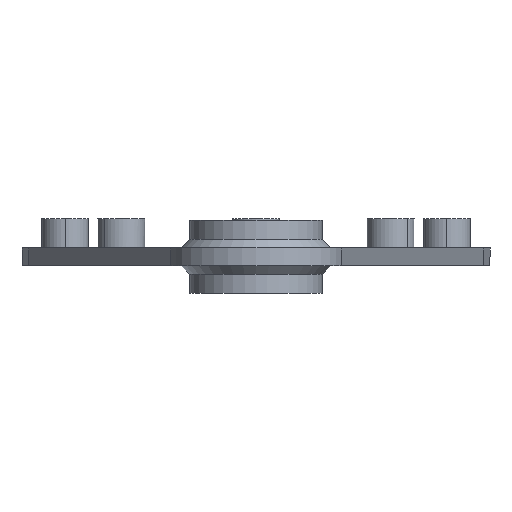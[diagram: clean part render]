
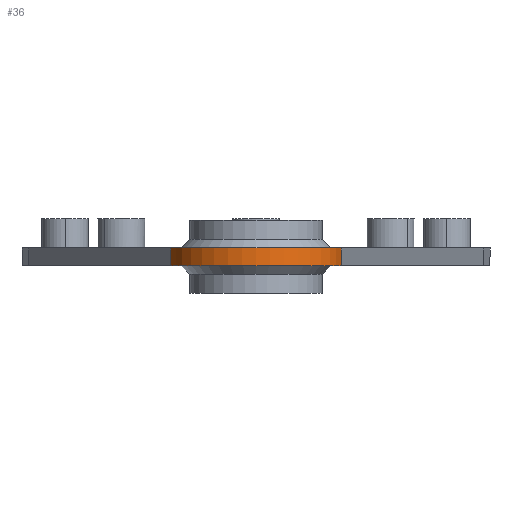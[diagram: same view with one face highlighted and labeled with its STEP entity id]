
A CAD part, front view. The second image highlights one B-rep face of the part: STEP entity #36.
In plain terms, the highlighted cylindrical face has radius 30 mm (diameter 60 mm), a partial arc.
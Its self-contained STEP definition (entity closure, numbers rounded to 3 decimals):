
#36=ADVANCED_FACE('',(#80),#716,.T.);
#80=FACE_OUTER_BOUND('',#124,.T.);
#124=EDGE_LOOP('',(#194,#195,#196,#197));
#194=ORIENTED_EDGE('',*,*,#391,.T.);
#195=ORIENTED_EDGE('',*,*,#381,.T.);
#196=ORIENTED_EDGE('',*,*,#392,.T.);
#197=ORIENTED_EDGE('',*,*,#386,.T.);
#381=EDGE_CURVE('',#643,#645,#609,.T.);
#386=EDGE_CURVE('',#649,#648,#612,.T.);
#391=EDGE_CURVE('',#648,#643,#482,.T.);
#392=EDGE_CURVE('',#645,#649,#483,.T.);
#482=TRIMMED_CURVE($,#546,(#1394),(#1395),.T.,.CARTESIAN.);
#483=TRIMMED_CURVE($,#547,(#1397),(#1398),.T.,.CARTESIAN.);
#546=CIRCLE('',#975,30.);
#547=CIRCLE('',#976,30.);
#609=B_SPLINE_CURVE_WITH_KNOTS('',1,(#1369,#1370),.UNSPECIFIED.,.F.,.F.,
(2,2),(-6.,0.),.UNSPECIFIED.);
#612=B_SPLINE_CURVE_WITH_KNOTS('',1,(#1381,#1382),.UNSPECIFIED.,.F.,.F.,
(2,2),(-6.,0.),.UNSPECIFIED.);
#643=VERTEX_POINT('',#1296);
#645=VERTEX_POINT('',#1298);
#648=VERTEX_POINT('',#1301);
#649=VERTEX_POINT('',#1302);
#716=CYLINDRICAL_SURFACE('',#935,30.);
#935=AXIS2_PLACEMENT_3D('',#1219,#1045,$);
#975=AXIS2_PLACEMENT_3D($,#1393,#1089,#1090);
#976=AXIS2_PLACEMENT_3D($,#1396,#1091,#1092);
#1045=DIRECTION('',(0.,0.,-1.));
#1089=DIRECTION('',(0.,0.,1.));
#1090=DIRECTION('',(-0.968,-0.25,0.));
#1091=DIRECTION('',(0.,0.,-1.));
#1092=DIRECTION('',(0.968,-0.25,0.));
#1219=CARTESIAN_POINT('',(0.,-200.,0.));
#1296=CARTESIAN_POINT('',(29.047,-207.5,-3.));
#1298=CARTESIAN_POINT('',(29.047,-207.5,3.));
#1301=CARTESIAN_POINT('',(-29.047,-207.5,-3.));
#1302=CARTESIAN_POINT('',(-29.047,-207.5,3.));
#1369=CARTESIAN_POINT('',(29.047,-207.5,-3.));
#1370=CARTESIAN_POINT('',(29.047,-207.5,3.));
#1381=CARTESIAN_POINT('',(-29.047,-207.5,3.));
#1382=CARTESIAN_POINT('',(-29.047,-207.5,-3.));
#1393=CARTESIAN_POINT('',(0.,-200.,-3.));
#1394=CARTESIAN_POINT('',(-29.047,-207.5,-3.));
#1395=CARTESIAN_POINT('',(29.047,-207.5,-3.));
#1396=CARTESIAN_POINT('',(0.,-200.,3.));
#1397=CARTESIAN_POINT('',(29.047,-207.5,3.));
#1398=CARTESIAN_POINT('',(-29.047,-207.5,3.));
